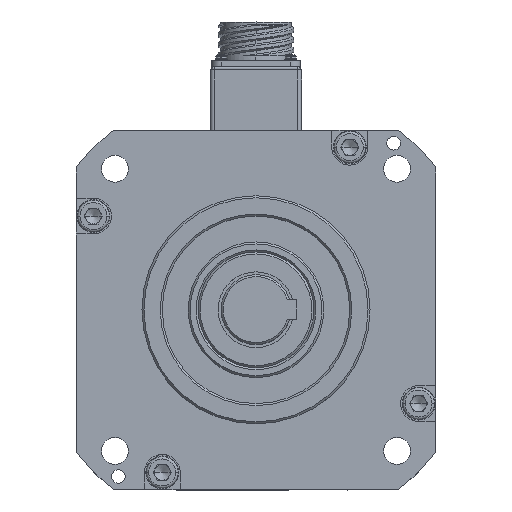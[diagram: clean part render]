
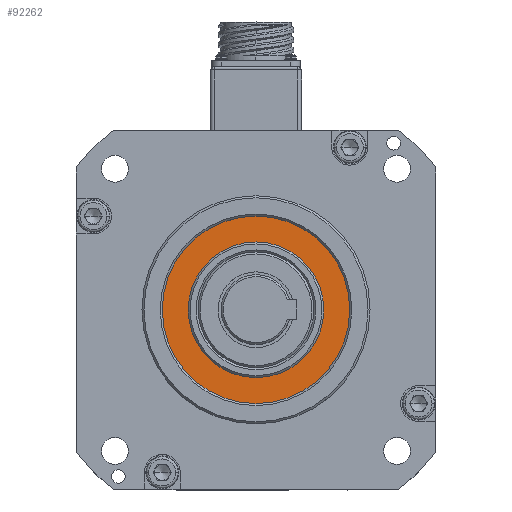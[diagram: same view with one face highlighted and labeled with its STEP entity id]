
A CAD part, top view. The second image highlights one B-rep face of the part: STEP entity #92262.
In plain terms, the highlighted planar face has unit normal (0, 0, 1).
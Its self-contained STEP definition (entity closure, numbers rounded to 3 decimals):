
#837 = AXIS2_PLACEMENT_3D ( 'NONE', #13667, #68449, #21551 ) ;
#10021 = CARTESIAN_POINT ( 'NONE',  ( 163.371, 101.743, 119.655 ) ) ;
#10623 = CARTESIAN_POINT ( 'NONE',  ( 163.371, 67.743, 119.655 ) ) ;
#11801 = CARTESIAN_POINT ( 'NONE',  ( 163.371, 101.743, 119.655 ) ) ;
#12246 = EDGE_LOOP ( 'NONE', ( #61960, #57432 ) ) ;
#13667 = CARTESIAN_POINT ( 'NONE',  ( 163.371, 101.743, 119.655 ) ) ;
#14282 = CARTESIAN_POINT ( 'NONE',  ( 163.371, 135.743, 119.655 ) ) ;
#17220 = FACE_OUTER_BOUND ( 'NONE', #12246, .T. ) ;
#17924 = DIRECTION ( 'NONE',  ( 0., -1., 0. ) ) ;
#18647 = CIRCLE ( 'NONE', #23691, 34. ) ;
#19691 = DIRECTION ( 'NONE',  ( 0., -1., 0. ) ) ;
#19831 = VERTEX_POINT ( 'NONE', #59607 ) ;
#21551 = DIRECTION ( 'NONE',  ( 0., -1., 0. ) ) ;
#23691 = AXIS2_PLACEMENT_3D ( 'NONE', #11801, #66550, #19691 ) ;
#24950 = PLANE ( 'NONE',  #98773 ) ;
#25755 = CIRCLE ( 'NONE', #837, 47. ) ;
#26083 = CIRCLE ( 'NONE', #84147, 47. ) ;
#39333 = AXIS2_PLACEMENT_3D ( 'NONE', #44919, #99882, #52796 ) ;
#40639 = DIRECTION ( 'NONE',  ( 0., -1., 0. ) ) ;
#43964 = EDGE_CURVE ( 'NONE', #19831, #52861, #25755, .T. ) ;
#44919 = CARTESIAN_POINT ( 'NONE',  ( 163.371, 101.743, 119.655 ) ) ;
#45329 = ORIENTED_EDGE ( 'NONE', *, *, #74802, .F. ) ;
#52796 = DIRECTION ( 'NONE',  ( 0., -1., 0. ) ) ;
#52861 = VERTEX_POINT ( 'NONE', #84113 ) ;
#55060 = EDGE_CURVE ( 'NONE', #52861, #19831, #26083, .T. ) ;
#56364 = FACE_BOUND ( 'NONE', #84906, .T. ) ;
#57432 = ORIENTED_EDGE ( 'NONE', *, *, #43964, .T. ) ;
#59607 = CARTESIAN_POINT ( 'NONE',  ( 163.371, 54.743, 119.655 ) ) ;
#61960 = ORIENTED_EDGE ( 'NONE', *, *, #55060, .T. ) ;
#63935 = CARTESIAN_POINT ( 'NONE',  ( 163.371, 101.743, 119.655 ) ) ;
#64107 = VERTEX_POINT ( 'NONE', #10623 ) ;
#64790 = DIRECTION ( 'NONE',  ( 0., 0., 1. ) ) ;
#66550 = DIRECTION ( 'NONE',  ( 0., 0., 1. ) ) ;
#68449 = DIRECTION ( 'NONE',  ( 0., 0., 1. ) ) ;
#74802 = EDGE_CURVE ( 'NONE', #86077, #64107, #96879, .T. ) ;
#79332 = ORIENTED_EDGE ( 'NONE', *, *, #88034, .F. ) ;
#84113 = CARTESIAN_POINT ( 'NONE',  ( 163.371, 148.743, 119.655 ) ) ;
#84147 = AXIS2_PLACEMENT_3D ( 'NONE', #10021, #64790, #17924 ) ;
#84906 = EDGE_LOOP ( 'NONE', ( #45329, #79332 ) ) ;
#86077 = VERTEX_POINT ( 'NONE', #14282 ) ;
#87669 = DIRECTION ( 'NONE',  ( 0., 0., 1. ) ) ;
#88034 = EDGE_CURVE ( 'NONE', #64107, #86077, #18647, .T. ) ;
#92262 = ADVANCED_FACE ( 'NONE', ( #56364, #17220 ), #24950, .T. ) ;
#96879 = CIRCLE ( 'NONE', #39333, 34. ) ;
#98773 = AXIS2_PLACEMENT_3D ( 'NONE', #63935, #87669, #40639 ) ;
#99882 = DIRECTION ( 'NONE',  ( 0., 0., 1. ) ) ;
